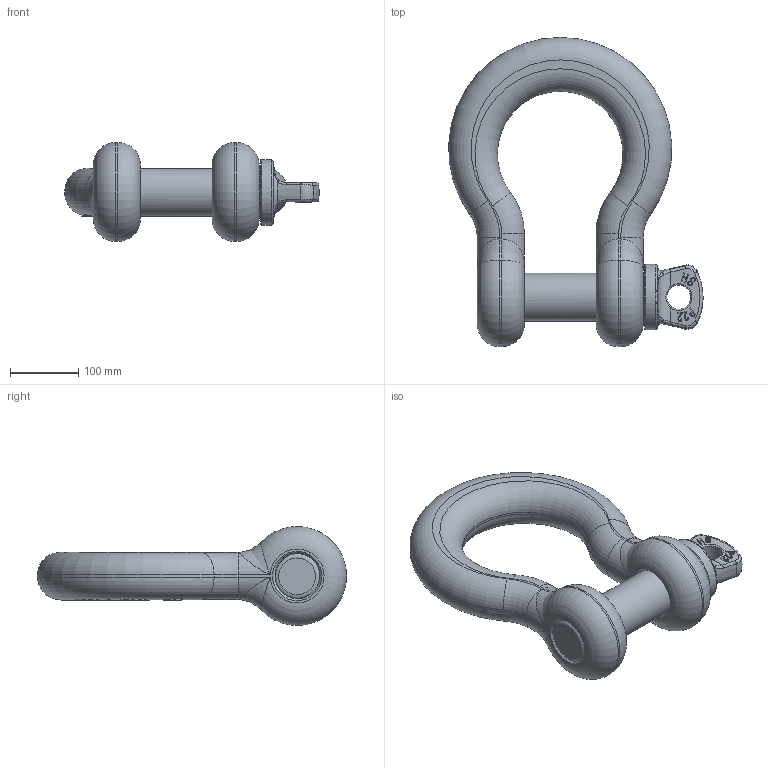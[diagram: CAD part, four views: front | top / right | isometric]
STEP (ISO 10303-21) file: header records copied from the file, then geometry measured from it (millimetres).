
FILE_DESCRIPTION(/* description */ (''),/* implementation_level */ '2;1');
FILE_NAME(/* name */ 'G-2410-2 1-2.stp',/* time_stamp */ '2025-04-08T08:22:05+08:00',/* author */ (''),/* organization */ (''),/* preprocessor_version */ 'ST-DEVELOPER v16',/* originating_system */ 'SIEMENS PLM Software NX 10.0',/* authorisation */ '');
FILE_SCHEMA (('AP203_CONFIGURATION_CONTROLLED_3D_DESIGN_OF_MECHANICAL_PARTS_AND_ASSEMBLIES_MIM_LF { 1 0 10303 403 2 1 2}'));
Length unit declared in the file: millimetre
Products named in the file (1): Admi20FC52B4dhqy
Bounding box: 372.78 x 453 x 144.97 mm (x, y, z)
Volume: 5560977.5 mm3; surface area: 373605.7 mm2
Topology: 2 solids, 2 shells, 550 faces, 1524 edges, 984 vertices
Faces by surface type: plane 225, extrusion 165, cylinder 73, bspline 44, torus 34, cone 8, sphere 1
Full cylindrical faces by diameter (mm): 35.1 x1, 70 x11, 96 x1
Entity records: 26734 total; most frequent: CARTESIAN_POINT 14418, ORIENTED_EDGE 2930, DIRECTION 1805, EDGE_CURVE 1465, VERTEX_POINT 955, B_SPLINE_CURVE_WITH_KNOTS 882, VECTOR 685, EDGE_LOOP 574
